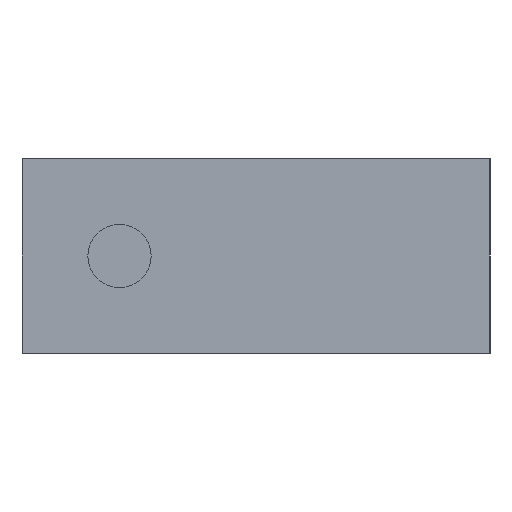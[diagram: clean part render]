
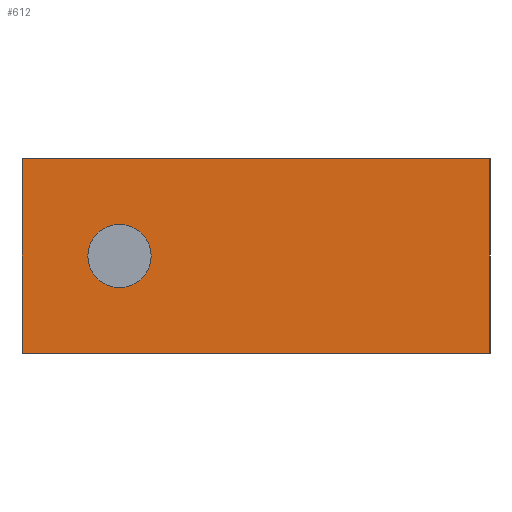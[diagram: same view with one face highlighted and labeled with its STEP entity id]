
A CAD part, left-side view. The second image highlights one B-rep face of the part: STEP entity #612.
In plain terms, the highlighted planar face has unit normal (-1, 0, 0).
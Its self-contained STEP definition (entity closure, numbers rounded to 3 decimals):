
#44 = PLANE('',#45);
#45 = AXIS2_PLACEMENT_3D('',#46,#47,#48);
#46 = CARTESIAN_POINT('',(33.,-10.,5.));
#47 = DIRECTION('',(-0.,-0.,1.));
#48 = DIRECTION('',(1.,0.,0.));
#72 = PLANE('',#73);
#73 = AXIS2_PLACEMENT_3D('',#74,#75,#76);
#74 = CARTESIAN_POINT('',(33.,-10.,-5.));
#75 = DIRECTION('',(-0.,1.,0.));
#76 = DIRECTION('',(0.,0.,-1.));
#100 = PLANE('',#101);
#101 = AXIS2_PLACEMENT_3D('',#102,#103,#104);
#102 = CARTESIAN_POINT('',(33.,-10.,-5.));
#103 = DIRECTION('',(-0.,-0.,1.));
#104 = DIRECTION('',(1.,0.,0.));
#143 = VERTEX_POINT('',#144);
#144 = CARTESIAN_POINT('',(-35.2,-10.,5.));
#165 = EDGE_CURVE('',#143,#166,#168,.T.);
#166 = VERTEX_POINT('',#167);
#167 = CARTESIAN_POINT('',(-35.2,14.,5.));
#168 = SURFACE_CURVE('',#169,(#173,#180),.PCURVE_S1.);
#169 = LINE('',#170,#171);
#170 = CARTESIAN_POINT('',(-35.2,-10.,5.));
#171 = VECTOR('',#172,1.);
#172 = DIRECTION('',(-0.,1.,-0.));
#173 = PCURVE('',#44,#174);
#174 = DEFINITIONAL_REPRESENTATION('',(#175),#179);
#175 = LINE('',#176,#177);
#176 = CARTESIAN_POINT('',(-68.2,0.));
#177 = VECTOR('',#178,1.);
#178 = DIRECTION('',(-0.,1.));
#179 = ( GEOMETRIC_REPRESENTATION_CONTEXT(2)
PARAMETRIC_REPRESENTATION_CONTEXT() REPRESENTATION_CONTEXT('2D SPACE',''
  ) );
#180 = PCURVE('',#181,#186);
#181 = PLANE('',#182);
#182 = AXIS2_PLACEMENT_3D('',#183,#184,#185);
#183 = CARTESIAN_POINT('',(-35.2,-10.,-5.));
#184 = DIRECTION('',(-1.,-0.,-0.));
#185 = DIRECTION('',(0.,0.,-1.));
#186 = DEFINITIONAL_REPRESENTATION('',(#187),#191);
#187 = LINE('',#188,#189);
#188 = CARTESIAN_POINT('',(-10.,-0.));
#189 = VECTOR('',#190,1.);
#190 = DIRECTION('',(-0.,-1.));
#191 = ( GEOMETRIC_REPRESENTATION_CONTEXT(2)
PARAMETRIC_REPRESENTATION_CONTEXT() REPRESENTATION_CONTEXT('2D SPACE',''
  ) );
#209 = PLANE('',#210);
#210 = AXIS2_PLACEMENT_3D('',#211,#212,#213);
#211 = CARTESIAN_POINT('',(-27.2,14.,-5.));
#212 = DIRECTION('',(-0.,1.,0.));
#213 = DIRECTION('',(0.,0.,-1.));
#330 = VERTEX_POINT('',#331);
#331 = CARTESIAN_POINT('',(-35.2,-10.,-5.));
#354 = EDGE_CURVE('',#330,#143,#355,.T.);
#355 = SURFACE_CURVE('',#356,(#360,#367),.PCURVE_S1.);
#356 = LINE('',#357,#358);
#357 = CARTESIAN_POINT('',(-35.2,-10.,-5.));
#358 = VECTOR('',#359,1.);
#359 = DIRECTION('',(0.,0.,1.));
#360 = PCURVE('',#72,#361);
#361 = DEFINITIONAL_REPRESENTATION('',(#362),#366);
#362 = LINE('',#363,#364);
#363 = CARTESIAN_POINT('',(-0.,68.2));
#364 = VECTOR('',#365,1.);
#365 = DIRECTION('',(-1.,0.));
#366 = ( GEOMETRIC_REPRESENTATION_CONTEXT(2)
PARAMETRIC_REPRESENTATION_CONTEXT() REPRESENTATION_CONTEXT('2D SPACE',''
  ) );
#367 = PCURVE('',#181,#368);
#368 = DEFINITIONAL_REPRESENTATION('',(#369),#373);
#369 = LINE('',#370,#371);
#370 = CARTESIAN_POINT('',(-0.,-0.));
#371 = VECTOR('',#372,1.);
#372 = DIRECTION('',(-1.,-0.));
#373 = ( GEOMETRIC_REPRESENTATION_CONTEXT(2)
PARAMETRIC_REPRESENTATION_CONTEXT() REPRESENTATION_CONTEXT('2D SPACE',''
  ) );
#449 = EDGE_CURVE('',#450,#330,#452,.T.);
#450 = VERTEX_POINT('',#451);
#451 = CARTESIAN_POINT('',(-35.2,14.,-5.));
#452 = SURFACE_CURVE('',#453,(#457,#464),.PCURVE_S1.);
#453 = LINE('',#454,#455);
#454 = CARTESIAN_POINT('',(-35.2,14.,-5.));
#455 = VECTOR('',#456,1.);
#456 = DIRECTION('',(-0.,-1.,-0.));
#457 = PCURVE('',#100,#458);
#458 = DEFINITIONAL_REPRESENTATION('',(#459),#463);
#459 = LINE('',#460,#461);
#460 = CARTESIAN_POINT('',(-68.2,24.));
#461 = VECTOR('',#462,1.);
#462 = DIRECTION('',(-0.,-1.));
#463 = ( GEOMETRIC_REPRESENTATION_CONTEXT(2)
PARAMETRIC_REPRESENTATION_CONTEXT() REPRESENTATION_CONTEXT('2D SPACE',''
  ) );
#464 = PCURVE('',#181,#465);
#465 = DEFINITIONAL_REPRESENTATION('',(#466),#470);
#466 = LINE('',#467,#468);
#467 = CARTESIAN_POINT('',(-0.,-24.));
#468 = VECTOR('',#469,1.);
#469 = DIRECTION('',(-0.,1.));
#470 = ( GEOMETRIC_REPRESENTATION_CONTEXT(2)
PARAMETRIC_REPRESENTATION_CONTEXT() REPRESENTATION_CONTEXT('2D SPACE',''
  ) );
#612 = ADVANCED_FACE('',(#613,#639),#181,.T.);
#613 = FACE_BOUND('',#614,.F.);
#614 = EDGE_LOOP('',(#615,#616,#617,#618));
#615 = ORIENTED_EDGE('',*,*,#165,.F.);
#616 = ORIENTED_EDGE('',*,*,#354,.F.);
#617 = ORIENTED_EDGE('',*,*,#449,.F.);
#618 = ORIENTED_EDGE('',*,*,#619,.T.);
#619 = EDGE_CURVE('',#450,#166,#620,.T.);
#620 = SURFACE_CURVE('',#621,(#625,#632),.PCURVE_S1.);
#621 = LINE('',#622,#623);
#622 = CARTESIAN_POINT('',(-35.2,14.,-5.));
#623 = VECTOR('',#624,1.);
#624 = DIRECTION('',(0.,0.,1.));
#625 = PCURVE('',#181,#626);
#626 = DEFINITIONAL_REPRESENTATION('',(#627),#631);
#627 = LINE('',#628,#629);
#628 = CARTESIAN_POINT('',(-0.,-24.));
#629 = VECTOR('',#630,1.);
#630 = DIRECTION('',(-1.,-0.));
#631 = ( GEOMETRIC_REPRESENTATION_CONTEXT(2)
PARAMETRIC_REPRESENTATION_CONTEXT() REPRESENTATION_CONTEXT('2D SPACE',''
  ) );
#632 = PCURVE('',#209,#633);
#633 = DEFINITIONAL_REPRESENTATION('',(#634),#638);
#634 = LINE('',#635,#636);
#635 = CARTESIAN_POINT('',(-0.,8.));
#636 = VECTOR('',#637,1.);
#637 = DIRECTION('',(-1.,0.));
#638 = ( GEOMETRIC_REPRESENTATION_CONTEXT(2)
PARAMETRIC_REPRESENTATION_CONTEXT() REPRESENTATION_CONTEXT('2D SPACE',''
  ) );
#639 = FACE_BOUND('',#640,.F.);
#640 = EDGE_LOOP('',(#641));
#641 = ORIENTED_EDGE('',*,*,#642,.F.);
#642 = EDGE_CURVE('',#643,#643,#645,.T.);
#643 = VERTEX_POINT('',#644);
#644 = CARTESIAN_POINT('',(-35.2,9.,1.621));
#645 = SURFACE_CURVE('',#646,(#651,#662),.PCURVE_S1.);
#646 = CIRCLE('',#647,1.621);
#647 = AXIS2_PLACEMENT_3D('',#648,#649,#650);
#648 = CARTESIAN_POINT('',(-35.2,9.,0.));
#649 = DIRECTION('',(1.,-0.,0.));
#650 = DIRECTION('',(-0.,-0.,1.));
#651 = PCURVE('',#181,#652);
#652 = DEFINITIONAL_REPRESENTATION('',(#653),#661);
#653 = ( BOUNDED_CURVE() B_SPLINE_CURVE(2,(#654,#655,#656,#657,#658,#659
,#660),.UNSPECIFIED.,.T.,.F.) B_SPLINE_CURVE_WITH_KNOTS((1,2,2,2,2,1),(
    -2.094,0.,2.094,4.189,6.283,
8.378),.UNSPECIFIED.) CURVE() GEOMETRIC_REPRESENTATION_ITEM()
RATIONAL_B_SPLINE_CURVE((1.,0.5,1.,0.5,1.,0.5,1.)) REPRESENTATION_ITEM(
  '') );
#654 = CARTESIAN_POINT('',(-6.621,-19.));
#655 = CARTESIAN_POINT('',(-6.621,-16.192));
#656 = CARTESIAN_POINT('',(-4.19,-17.596));
#657 = CARTESIAN_POINT('',(-1.758,-19.));
#658 = CARTESIAN_POINT('',(-4.19,-20.404));
#659 = CARTESIAN_POINT('',(-6.621,-21.808));
#660 = CARTESIAN_POINT('',(-6.621,-19.));
#661 = ( GEOMETRIC_REPRESENTATION_CONTEXT(2)
PARAMETRIC_REPRESENTATION_CONTEXT() REPRESENTATION_CONTEXT('2D SPACE',''
  ) );
#662 = PCURVE('',#663,#668);
#663 = CYLINDRICAL_SURFACE('',#664,1.621);
#664 = AXIS2_PLACEMENT_3D('',#665,#666,#667);
#665 = CARTESIAN_POINT('',(-26.2,9.,0.));
#666 = DIRECTION('',(-1.,-0.,-0.));
#667 = DIRECTION('',(-0.,-0.,1.));
#668 = DEFINITIONAL_REPRESENTATION('',(#669),#673);
#669 = LINE('',#670,#671);
#670 = CARTESIAN_POINT('',(-0.,9.));
#671 = VECTOR('',#672,1.);
#672 = DIRECTION('',(-1.,0.));
#673 = ( GEOMETRIC_REPRESENTATION_CONTEXT(2)
PARAMETRIC_REPRESENTATION_CONTEXT() REPRESENTATION_CONTEXT('2D SPACE',''
  ) );
